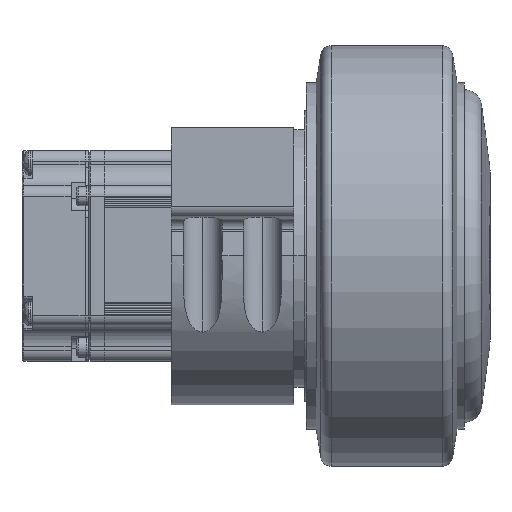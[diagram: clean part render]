
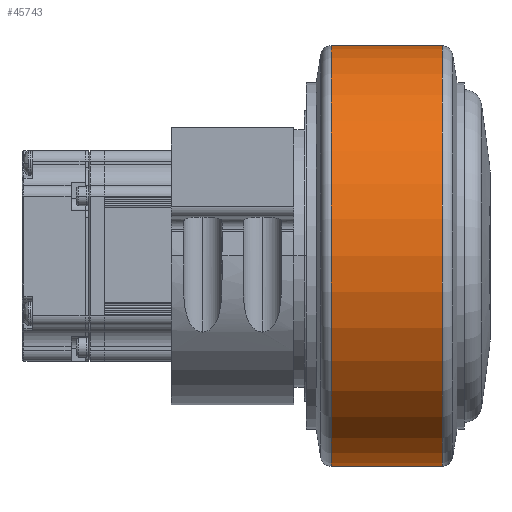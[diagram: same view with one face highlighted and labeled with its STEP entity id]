
A CAD part, top view. The second image highlights one B-rep face of the part: STEP entity #45743.
In plain terms, the highlighted cylindrical face has radius 60 mm (diameter 120 mm), a partial arc.
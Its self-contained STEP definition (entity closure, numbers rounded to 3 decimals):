
#549 = AXIS2_PLACEMENT_3D ( 'NONE', #51524, #74976, #44600 ) ;
#792 = CARTESIAN_POINT ( 'NONE',  ( 62.022, -96., -37.833 ) ) ;
#3321 = EDGE_CURVE ( 'NONE', #19106, #58853, #35680, .T. ) ;
#4344 = CARTESIAN_POINT ( 'NONE',  ( 108.095, -96., -37.833 ) ) ;
#10105 = LINE ( 'NONE', #4344, #34904 ) ;
#13287 = EDGE_CURVE ( 'NONE', #76008, #19106, #48785, .T. ) ;
#18822 = CIRCLE ( 'NONE', #60610, 60. ) ;
#19106 = VERTEX_POINT ( 'NONE', #27142 ) ;
#20302 = ORIENTED_EDGE ( 'NONE', *, *, #60459, .T. ) ;
#21514 = CARTESIAN_POINT ( 'NONE',  ( 93.73, -36., -37.833 ) ) ;
#24600 = AXIS2_PLACEMENT_3D ( 'NONE', #21514, #70613, #74193 ) ;
#27142 = CARTESIAN_POINT ( 'NONE',  ( 93.73, 24., -37.833 ) ) ;
#28072 = CYLINDRICAL_SURFACE ( 'NONE', #549, 60. ) ;
#33975 = ORIENTED_EDGE ( 'NONE', *, *, #3321, .F. ) ;
#34904 = VECTOR ( 'NONE', #68590, 1000. ) ;
#35680 = CIRCLE ( 'NONE', #24600, 60. ) ;
#36287 = EDGE_CURVE ( 'NONE', #42520, #58853, #10105, .T. ) ;
#36976 = EDGE_LOOP ( 'NONE', ( #49301, #20302, #63262, #33975 ) ) ;
#42520 = VERTEX_POINT ( 'NONE', #792 ) ;
#43006 = CARTESIAN_POINT ( 'NONE',  ( 108.095, 24., -37.833 ) ) ;
#43751 = VECTOR ( 'NONE', #48397, 1000. ) ;
#44600 = DIRECTION ( 'NONE',  ( 0., -1., 0. ) ) ;
#45743 = ADVANCED_FACE ( 'NONE', ( #46138 ), #28072, .T. ) ;
#46138 = FACE_OUTER_BOUND ( 'NONE', #36976, .T. ) ;
#47195 = CARTESIAN_POINT ( 'NONE',  ( 93.73, -96., -37.833 ) ) ;
#48397 = DIRECTION ( 'NONE',  ( 1., 0., 0. ) ) ;
#48785 = LINE ( 'NONE', #43006, #43751 ) ;
#49301 = ORIENTED_EDGE ( 'NONE', *, *, #13287, .F. ) ;
#51524 = CARTESIAN_POINT ( 'NONE',  ( 108.095, -36., -37.833 ) ) ;
#58625 = DIRECTION ( 'NONE',  ( 0., -1., 0. ) ) ;
#58853 = VERTEX_POINT ( 'NONE', #47195 ) ;
#60459 = EDGE_CURVE ( 'NONE', #76008, #42520, #18822, .T. ) ;
#60610 = AXIS2_PLACEMENT_3D ( 'NONE', #65152, #64394, #58625 ) ;
#61569 = CARTESIAN_POINT ( 'NONE',  ( 62.022, 24., -37.833 ) ) ;
#63262 = ORIENTED_EDGE ( 'NONE', *, *, #36287, .T. ) ;
#64394 = DIRECTION ( 'NONE',  ( 1., 0., 0. ) ) ;
#65152 = CARTESIAN_POINT ( 'NONE',  ( 62.022, -36., -37.833 ) ) ;
#68590 = DIRECTION ( 'NONE',  ( 1., 0., 0. ) ) ;
#70613 = DIRECTION ( 'NONE',  ( 1., 0., 0. ) ) ;
#74193 = DIRECTION ( 'NONE',  ( 0., -1., 0. ) ) ;
#74976 = DIRECTION ( 'NONE',  ( 1., 0., 0. ) ) ;
#76008 = VERTEX_POINT ( 'NONE', #61569 ) ;
